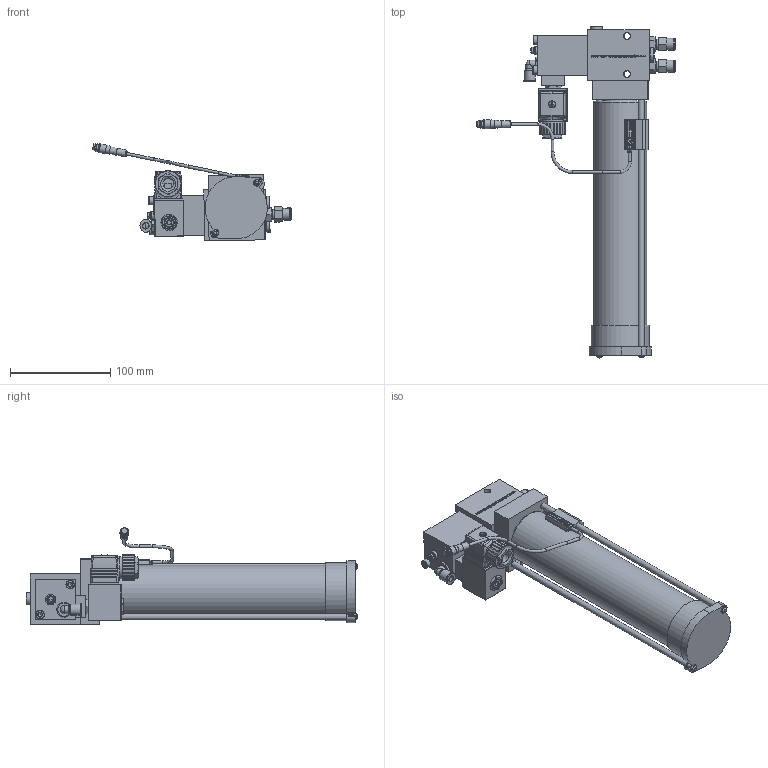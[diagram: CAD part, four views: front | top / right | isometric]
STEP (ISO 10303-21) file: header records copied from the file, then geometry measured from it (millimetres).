
FILE_DESCRIPTION (( 'STEP AP214' ), '1' );
FILE_NAME ('1470_0206_02sf_XXX.STEP', '2026-04-29T09:09:26', ( '' ), ( '' ), 'SwSTEP 2.0', 'SolidWorks 2022', '' );
FILE_SCHEMA (( 'AUTOMOTIVE_DESIGN' ));
Length unit declared in the file: millimetre
Products named in the file (21): TRO_Magnetventil_Stecker; Verschlussschraube_1_8; RZT7-2_kurz^3D-MARKETINGMODELL_S257244_Standard; DPF_Pumpenausgangsverschraubung; DPF_Pumpenkoerper_2_fach; 04E33_1801_MAGNETSPULE_FORM-A; DPF_distantsscheibeibe_1; Cu_Ring_1_8; DPF_Sensor; DPF_Luftverschraubung; Klemmteil_Lubeshutle; DPF70_Lubeshuttle-Adapter_Test; 1470_0206_02sf_XXX; 3D-LEITUNG_MIT_M8-STECKER_S071327_M8-MARKETINGMODELL_2D9; ZYLSCHRAUBE_M5X10; DPF_70_Ankerstange; DPF_Pumpenkoerper_2fach_4fach; DPF_Funktionskontrolle_Stecker; DPF_10_1; DPF_DECKEL_Kartusche; Lubeshuttle_Kartusche
Assembly tree (26 placements, depth 3):
  1470_0206_02sf_XXX
    DPF_70_Ankerstange  x2
    Lubeshuttle_Kartusche
    DPF_DECKEL_Kartusche
    DPF_distantsscheibeibe_1
    Klemmteil_Lubeshutle
    DPF_Sensor
      RZT7-2_kurz^3D-MARKETINGMODELL_S257244_Standard
      3D-LEITUNG_MIT_M8-STECKER_S071327_M8-MARKETINGMODELL_2D9
    DPF70_Lubeshuttle-Adapter_Test
    DPF_Pumpenkoerper_2fach_4fach
      DPF_Pumpenkoerper_2_fach
      DPF_Pumpenausgangsverschraubung  x2
      DPF_Luftverschraubung
      04E33_1801_MAGNETSPULE_FORM-A
      TRO_Magnetventil_Stecker
      DPF_10_1  x2
      DPF_Funktionskontrolle_Stecker
      ZYLSCHRAUBE_M5X10  x2
    Cu_Ring_1_8  x2
    Verschlussschraube_1_8  x2
Bounding box: 198.35 x 331 x 96.66 mm (x, y, z)
Volume: 956272.1 mm3; surface area: 149485.3 mm2
Topology: 24 solids, 24 shells, 1420 faces, 3649 edges, 2362 vertices
Faces by surface type: plane 813, cylinder 321, bspline 206, cone 56, torus 19, sphere 5
Full cylindrical faces by diameter (mm): 1 x3, 1.47 x1, 1.5 x3, 1.6 x1, 2.5 x1, 2.9 x5, 3.5 x2, 4 x3, 5 x8, 5.75 x1, 5.774 x2, 6 x6, 6.2 x1, 6.25 x1, 6.5 x6, 6.6 x2, 6.75 x1, 6.9 x1, 7 x2, 8 x3, 8.3 x2, 8.4 x2, 8.5 x2, 8.8 x1, 9 x4, 9.5 x1, 9.728 x2, 10 x8, 10.3 x1, 10.5 x2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
Entity records: 54636 total; most frequent: CARTESIAN_POINT 20333, ORIENTED_EDGE 6296, DIRECTION 5462, EDGE_CURVE 3148, VERTEX_POINT 2122, VECTOR 2012, LINE 2012, AXIS2_PLACEMENT_3D 1725
